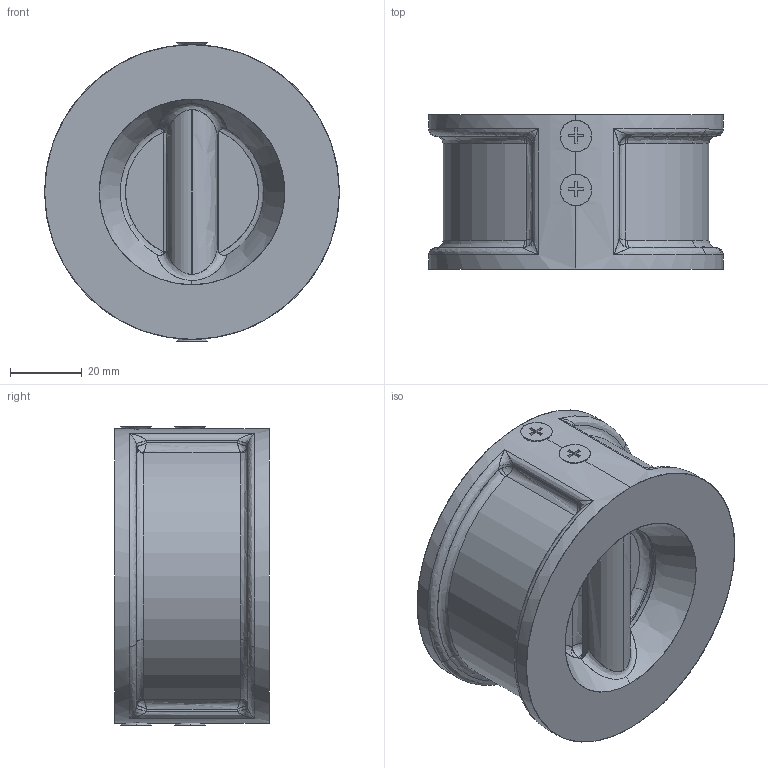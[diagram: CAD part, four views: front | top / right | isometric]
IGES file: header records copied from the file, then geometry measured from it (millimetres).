
Start section: SolidWorks IGES file using analytic representation for surfaces
Global section: file name: C:\Users\Administrator\Desktop\temp\00.IGS; native system: SolidWorks 2015; preprocessor: SolidWorks 2015; author: Administrator; date: 170402.163211; units: millimetre
Bounding box: 82 x 43 x 82.95 mm (x, y, z)
Surface area: 42610.4 mm2 (no closed solid volume)
Topology: 0 solids, 0 shells, 427 faces, 4799 edges, 4769 vertices
Faces by surface type: bspline 277, revolution 150
